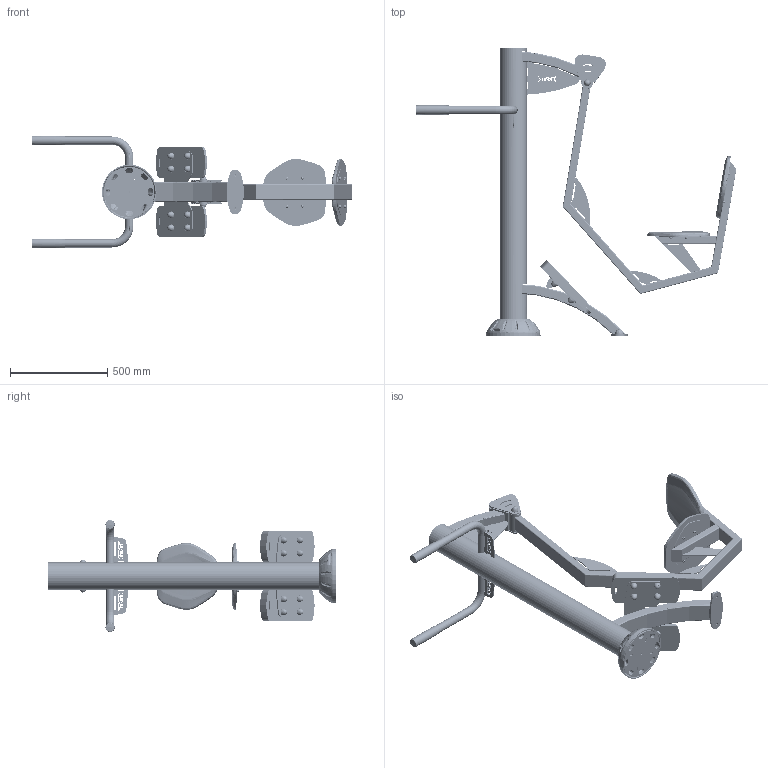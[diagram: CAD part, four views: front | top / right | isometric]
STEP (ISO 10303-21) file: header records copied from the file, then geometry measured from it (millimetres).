
FILE_DESCRIPTION (( 'STEP AP203' ), '1' );
FILE_NAME ('M0323 - DIPS-QUADRICEPS V1.1.STEP', '2020-02-18T08:50:27', ( '' ), ( '' ), 'SwSTEP 2.0', 'SolidWorks 2019', '' );
FILE_SCHEMA (( 'CONFIG_CONTROL_DESIGN' ));
Length unit declared in the file: millimetre
Products named in the file (61): PU-TOLGORPQUA - gousset repose pied Quadriceps V1.1; TRESOSIE-M0303 - Tube sous siège Quadriceps V1.0; SR0416 - Rondelle plate petite M10 A2 ext 22mm; PU-TOLGOPL - Gousset platine V2.0; TOLPL-230-90.A - Platine 230x90 V1.0; SR0415 - Rondelle Grower M8 A2; SR0404 - Rondelle plate Moyenne M8 A2; PU-TDRFIT130 - Tole renfort Fitpark L130 H70 V1.0; SR0431 - Rondelle plastique pour roulement 6204 ép 5,3 V1.0; SB0112 - Vis Torx teton central M8x20_M8x20; PU-TOLGOSIQUA - Gousset siège Quadriceps V2.0; SSD0720 - SIEGE DOSSIER ASS V1.2_‚p.3 - Fixation dossier; M0323-B - CHASSIS DIPS-QUADRICEPS ASS V1.0; SBB2108 - Plaque latérale courte pour chape 110 ep.6 boite a butee V1.0__; PU-TOLPLAT - Platine base V1.0; TREPOSIE-M0303 - Tube potence siège Quadriceps V1.1; TOLGOUDINFQUA - Tôle Gousset double inferieur quadriceps V1.0 .; SB0101 - Vis CHC M8x40 inox A2; SSD0720 - SIEGE DOSSIER ASS V1.2_‚p.5 - Fixation siŠge; SRP0206 - REPOSE PIED ASS V4.0_Capuchon Ｑ 6; PLATINE BASE ASS V2.0_RAL7012; TOLGODOUPOQUA - Gousset double potence Quadriceps V1.0; SF1100 - Ecrou frein M8 A2; SC0304 - CACHE PLATINE ASS V4.0; TROND42.4X2.9 - Tube Dips duo L=711 V1.0; SBB2102 - Plaque latérale pour chape 110 ep.6 boite a butee V1.2__; SUPPORT BUTEE CHAPE 110 ASS V4.3_Avec but‚e simple + but‚e double + cale 6 mm; TRECT-R750 - Tube rectangulaire cintré R750 100x50x3 L655 V1.0; SBB2105.A - Support butee chape 110 V1.1; TRECT-R750 - Tube rectangulaire cintré R750 100x50x3 L352 V1.0; SCH1808 - Chapeau 76x51 pour tube 80x40 coupe à 45°; SC0306B - Base pour capuchon en nylon 36mm; SRP0206 - Repose pied V3.1; SSD0716 - Demi support siège béton pour tube 80x40 V1.1; SF1101 - Ecrou frein M10 A2; SC0308 - Base pour capuchon en nylon 44 mm; SBA1600 - Bague 6204 L107 V1.0; SBU1007 - Butee elastomere 60x38x20 V1.1_60x38x20; SCH1806.A - Chapeau D135 V1.2; M0323 - DIPS-QUADRICEPS V1.1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
Assembly tree (145 placements, depth 4):
  M0323 - DIPS-QUADRICEPS V1.1
    M0323-B - CHASSIS DIPS-QUADRICEPS ASS V1.0
      PU-TROCB1468DD - Colonne base haute D.139,7x3 Ht1468 Dips duo V1.0
      SCH1806.A - Chapeau D135 V1.2
      TRECT-R750 - Tube rectangulaire cintré R750 100x50x3 L352 V1.0
      SBB2140 - BOITE A BUTEE AVEC DOUBLE ARRONDIS FERMES ASS V1.0_Chape 110
        SBB2102 - Plaque latérale pour chape 110 ep.6 boite a butee V1.2__
        SBB2101.B - Flasque boite a butee V1.4  x2
        SBB2108 - Plaque latérale courte pour chape 110 ep.6 boite a butee V1.0__  x2
        SBB2107 - Arrondi ferme boite a butee pour chape 110 V1.0  x2
      TRECT-R750 - Tube rectangulaire cintré R750 100x50x3 L655 V1.0
      PU-TDRFIT281 - Tole renfort Fitpark L281 H170 V1.0
      TOLAPQUA - Tole appui pieds Quadriceps V1.0
      PU-TOLGORPQUA - gousset repose pied Quadriceps V1.1
      PLATINE BASE ASS V2.0_RAL7012
        PU-TOLPLAT - Platine base V1.0
        PU-TOLGOPL - Gousset platine V2.0  x4
      TOLPL-230-90.A - Platine 230x90 V1.0
      TROND42.4X2.9 - Tube Dips duo L=711 V1.0  x2
      PU-TDRFIT130 - Tole renfort Fitpark L130 H70 V1.0  x2
    POTSIEG-M0303 - POTENCE SIEGE QUADRICEPS ASS V1.5
      TREPOSIE-M0303 - Tube potence siège Quadriceps V1.1
      TRESOSIE-M0303 - Tube sous siège Quadriceps V1.0
      SSD0716 - Demi support siège béton pour tube 80x40 V1.1  x2
      SSD0718 - Demi plaque dossier béton pour tube 80x40 V1.1  x2
      SBA1600 - Bague 6204 L107 V1.0
      SUPPORT BUTEE CHAPE 110 ASS V4.3_Avec but‚e simple + but‚e double + cale 6 mm
        SBB2105.A - Support butee chape 110 V1.1
        SBB2104 - Paroie support butee V4.1  x2
        SBU1007 - Butee elastomere 60x38x20 V1.1_60x38x20
        SF1100 - Ecrou frein M8 A2  x2
        SBB2109 - Cale pour butee ep.6 V1.0
        SB0101 - Vis CHC M8x40 inox A2
        SBU1008 - Butee elastomere 60x55x20 V1.0
        SR0404 - Rondelle plate Moyenne M8 A2  x4
        SB0122 - Vis CHC M8x35 inox A2
      SCH1808 - Chapeau 76x51 pour tube 80x40 coupe à 45°  x2
      PU-TOLGOSIQUA - Gousset siège Quadriceps V2.0
      TOLGODOUPOQUA - Gousset double potence Quadriceps V1.0  x2
      TOLGOUDINFQUA - Tôle Gousset double inferieur quadriceps V1.0 .  x2
    SRP0206 - REPOSE PIED ASS V4.0_Capuchon Ｑ 6
      SRP0206 - Repose pied V3.1
      SR0404 - Rondelle plate Moyenne M8 A2  x4
      SC0306B - Base pour capuchon en nylon 36mm  x4
      SF1100 - Ecrou frein M8 A2  x4
      SC0306C - Petit capuchon en nylon 36 mm  x4
    SSD0720 - SIEGE DOSSIER ASS V1.2_‚p.5 - Fixation siŠge
      SSD0720 - Dossier-siège V1.2
      SR0404 - Rondelle plate Moyenne M8 A2  x4
      SB0112 - Vis Torx teton central M8x20_M8x20  x4
      SR0415 - Rondelle Grower M8 A2  x4
    SSD0720 - SIEGE DOSSIER ASS V1.2_‚p.3 - Fixation dossier
      SSD0720 - Dossier-siège V1.2
      SR0404 - Rondelle plate Moyenne M8 A2  x4
      SB0112 - Vis Torx teton central M8x20_M8x20  x4
      SR0415 - Rondelle Grower M8 A2  x4
    ARTICULATION D60 CHAPE 110 V4.0_Avec rondelle SR0431
      SA1409A - Axe Inox D.20mm L156,3mm V1.0
      SC0306B - Base pour capuchon en nylon 36mm  x2
      SC0306C - Petit capuchon en nylon 36 mm  x2
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Bounding box: 1653.15 x 1486 x 578.18 mm (x, y, z)
Volume: 14737377 mm3; surface area: 5419331.1 mm2
Topology: 143 solids, 159 shells, 5028 faces, 12564 edges, 8048 vertices
Faces by surface type: plane 1680, cylinder 1284, bspline 824, cone 632, torus 508, sphere 100
Entity records: 188161 total; most frequent: CARTESIAN_POINT 119535, ORIENTED_EDGE 13024, DIRECTION 11709, EDGE_CURVE 6512, AXIS2_PLACEMENT_3D 4492, VERTEX_POINT 4188, EDGE_LOOP 2886, LINE 2725
